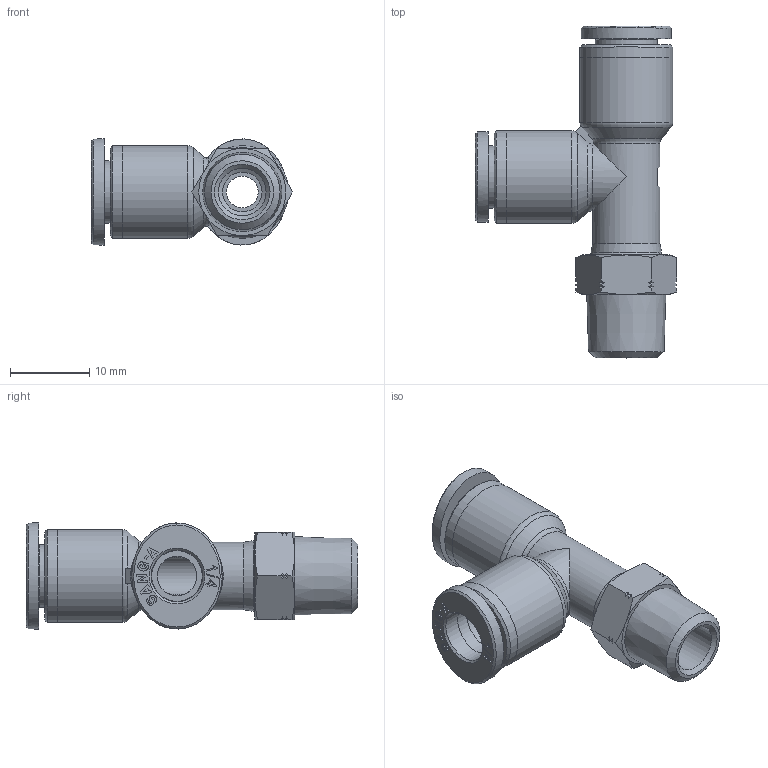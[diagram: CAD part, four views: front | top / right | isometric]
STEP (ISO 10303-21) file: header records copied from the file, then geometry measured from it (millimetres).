
FILE_DESCRIPTION((''),'2;1');
FILE_NAME('C:\Users\user0117\Desktop\김진일\G-FITTING INCH\1-4\G-FITTING INCH (STEP)\GPST 1_4-R01.stp','2020-04-23T08:44:06',('user0117'),(''),'Autodesk Inventor 2013','Autodesk Inventor 2013','');
FILE_SCHEMA(('AUTOMOTIVE_DESIGN { 1 0 10303 214 1 1 1 1 }'));
Length unit declared in the file: millimetre
Products named in the file (6): GPST 1_4-R01; GPL BODY 1-4 R01(BRASS); GPST BODY 1-4(PLASTIC); G-COLLAR G1-4L; COLLAR G1-4L; SLEEVE G1-4
Assembly tree (6 placements, depth 3):
  GPST 1_4-R01
    GPL BODY 1-4 R01(BRASS)
    GPST BODY 1-4(PLASTIC)
    G-COLLAR G1-4L  x2
      COLLAR G1-4L
      SLEEVE G1-4
Bounding box: 25.4 x 41.9 x 13.39 mm (x, y, z)
Volume: 3376 mm3; surface area: 4081.4 mm2
Topology: 6 solids, 6 shells, 346 faces, 885 edges, 583 vertices
Faces by surface type: plane 211, cone 51, bspline 44, cylinder 33, torus 5, sphere 2
Full cylindrical faces by diameter (mm): 4 x1, 5 x4, 6 x1, 6.55 x6, 7.85 x2, 8.5 x1, 11.7 x4
Entity records: 6807 total; most frequent: CARTESIAN_POINT 1771, ORIENTED_EDGE 1022, DIRECTION 959, EDGE_CURVE 511, VERTEX_POINT 351, AXIS2_PLACEMENT_3D 337, VECTOR 285, LINE 285
